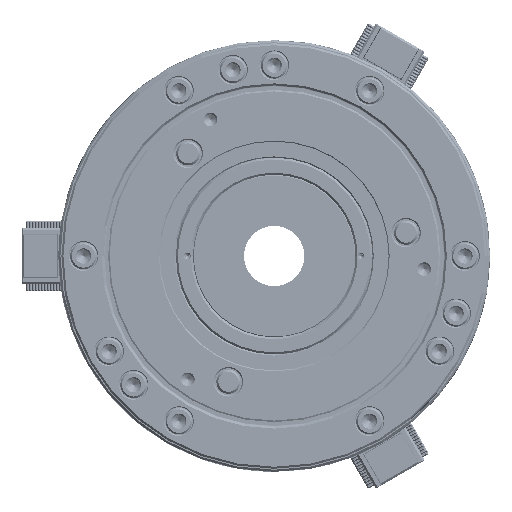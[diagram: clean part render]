
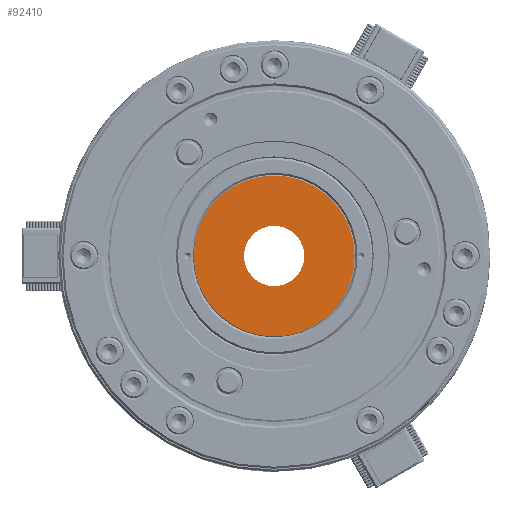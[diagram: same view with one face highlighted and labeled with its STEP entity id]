
A CAD part, left-side view. The second image highlights one B-rep face of the part: STEP entity #92410.
In plain terms, the highlighted planar face has unit normal (-1, 0, 0).
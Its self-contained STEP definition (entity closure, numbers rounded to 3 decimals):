
#1873 = AXIS2_PLACEMENT_3D ( 'NONE', #68771, #226299, #47973 ) ;
#10729 = ORIENTED_EDGE ( 'NONE', *, *, #191440, .T. ) ;
#23109 = ORIENTED_EDGE ( 'NONE', *, *, #226567, .T. ) ;
#27573 = DIRECTION ( 'NONE',  ( 0., 0., 1. ) ) ;
#47973 = DIRECTION ( 'NONE',  ( 0., 0., 1. ) ) ;
#55942 = CARTESIAN_POINT ( 'NONE',  ( -25., 0., 15. ) ) ;
#60810 = FACE_OUTER_BOUND ( 'NONE', #242674, .T. ) ;
#68771 = CARTESIAN_POINT ( 'NONE',  ( -25., 0., 0. ) ) ;
#80339 = DIRECTION ( 'NONE',  ( 0., 0., -1. ) ) ;
#82890 = FACE_BOUND ( 'NONE', #215803, .T. ) ;
#88340 = ORIENTED_EDGE ( 'NONE', *, *, #239304, .F. ) ;
#92410 = ADVANCED_FACE ( 'NONE', ( #82890, #60810 ), #101102, .F. ) ;
#97778 = ORIENTED_EDGE ( 'NONE', *, *, #255987, .F. ) ;
#99399 = CIRCLE ( 'NONE', #157726, 40.1 ) ;
#101102 = PLANE ( 'NONE',  #114661 ) ;
#105425 = CARTESIAN_POINT ( 'NONE',  ( -25., 0., 0. ) ) ;
#114661 = AXIS2_PLACEMENT_3D ( 'NONE', #205191, #140136, #80339 ) ;
#116694 = VERTEX_POINT ( 'NONE', #55942 ) ;
#118175 = CIRCLE ( 'NONE', #122272, 15. ) ;
#122272 = AXIS2_PLACEMENT_3D ( 'NONE', #205882, #207154, #27573 ) ;
#138916 = CIRCLE ( 'NONE', #1873, 40.1 ) ;
#140136 = DIRECTION ( 'NONE',  ( 1., 0., 0. ) ) ;
#143412 = DIRECTION ( 'NONE',  ( -1., 0., 0. ) ) ;
#157726 = AXIS2_PLACEMENT_3D ( 'NONE', #105425, #243535, #246116 ) ;
#160483 = VERTEX_POINT ( 'NONE', #206138 ) ;
#191440 = EDGE_CURVE ( 'NONE', #160483, #229677, #138916, .T. ) ;
#205191 = CARTESIAN_POINT ( 'NONE',  ( -25., 40.1, 0. ) ) ;
#205882 = CARTESIAN_POINT ( 'NONE',  ( -25., 0., 0. ) ) ;
#206138 = CARTESIAN_POINT ( 'NONE',  ( -25., 0., -40.1 ) ) ;
#206494 = VERTEX_POINT ( 'NONE', #232486 ) ;
#207154 = DIRECTION ( 'NONE',  ( -1., 0., 0. ) ) ;
#212518 = CIRCLE ( 'NONE', #245931, 15. ) ;
#215803 = EDGE_LOOP ( 'NONE', ( #97778, #88340 ) ) ;
#222884 = DIRECTION ( 'NONE',  ( 0., 0., 1. ) ) ;
#225471 = CARTESIAN_POINT ( 'NONE',  ( -25., 0., 0. ) ) ;
#225948 = CARTESIAN_POINT ( 'NONE',  ( -25., 0., 40.1 ) ) ;
#226299 = DIRECTION ( 'NONE',  ( -1., 0., 0. ) ) ;
#226567 = EDGE_CURVE ( 'NONE', #229677, #160483, #99399, .T. ) ;
#229677 = VERTEX_POINT ( 'NONE', #225948 ) ;
#232486 = CARTESIAN_POINT ( 'NONE',  ( -25., 0., -15. ) ) ;
#239304 = EDGE_CURVE ( 'NONE', #206494, #116694, #118175, .T. ) ;
#242674 = EDGE_LOOP ( 'NONE', ( #10729, #23109 ) ) ;
#243535 = DIRECTION ( 'NONE',  ( -1., 0., 0. ) ) ;
#245931 = AXIS2_PLACEMENT_3D ( 'NONE', #225471, #143412, #222884 ) ;
#246116 = DIRECTION ( 'NONE',  ( 0., 0., 1. ) ) ;
#255987 = EDGE_CURVE ( 'NONE', #116694, #206494, #212518, .T. ) ;
